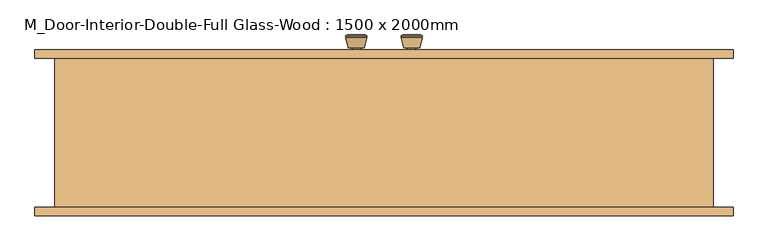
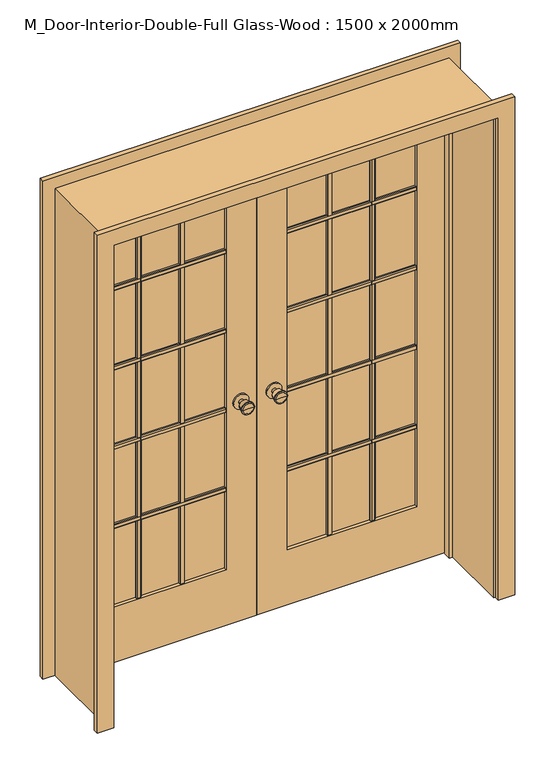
"""IFC4 building model written with IfcOpenShell, lengths in millimetres: door geometry, M_Door-Interior-Double-Full Glass-Wood : 1500 x 2000mm."""

from ifc_helpers import new_model, si_unit, point, frame, frame_2d, origin, place, context, project, spatial, polyline, circle_curve, trimmed, segment, composite_curve, outline, extrude, faceted_brep, source, transform, mapped, element, save
from ifc_brep_helpers import plane_surface, cylinder_surface, revolved_surface, advanced_brep


def m_door_interior_double_full_glass_wood_1500_x_2000mm_952f4878(model_context):
    return source(origin(), model_context, "Body", "SolidModel", [
        advanced_brep(
        [(-65.0, 177.825, 914.4), (-75.0, 177.825, 914.4), (-55.0, 177.825, 914.4), (-85.4758676, 226.825, 914.4), (-65.0, 226.825, 914.4), (-44.5241324, 226.825, 914.4), (-90.0, 224.9971319, 914.4), (-40.0, 224.9971319, 914.4), (-90.0, 221.5334537, 914.4), (-40.0, 221.5334537, 914.4), (-83.636236, 196.825, 914.4), (-46.363764, 196.825, 914.4), (-75.0, 196.825, 914.4), (-55.0, 196.825, 914.4)],
        [
            (0, 1),
            (1, 2, circle_curve(frame((-65.0, 177.825, 914.4), z_axis=(0.0, -1.0, 0.0), x_axis=(1.0, 0.0, 0.0)), 10.0)),
            (2, 0),
            (2, 1, circle_curve(frame((-65.0, 177.825, 914.4), z_axis=(0.0, -1.0, 0.0), x_axis=(1.0, 0.0, 0.0)), 10.0)),
            (3, 4),
            (4, 5),
            (5, 3, circle_curve(frame((-65.0, 226.825, 914.4), z_axis=(0.0, 1.0, 0.0), x_axis=(1.0, 0.0, 0.0)), 20.4758676)),
            (3, 5, circle_curve(frame((-65.0, 226.825, 914.4), z_axis=(0.0, 1.0, 0.0), x_axis=(1.0, 0.0, 0.0)), 20.4758676)),
            (6, 3),
            (5, 7),
            (7, 6, circle_curve(frame((-65.0, 224.9971319, 914.4), z_axis=(0.0, 1.0, 0.0), x_axis=(1.0, 0.0, 0.0)), 25.0)),
            (6, 7, circle_curve(frame((-65.0, 224.9971319, 914.4), z_axis=(0.0, 1.0, 0.0), x_axis=(1.0, 0.0, 0.0)), 25.0)),
            (8, 6),
            (7, 9),
            (9, 8, circle_curve(frame((-65.0, 221.5334537, 914.4), z_axis=(0.0, 1.0, 0.0), x_axis=(1.0, 0.0, 0.0)), 25.0)),
            (8, 9, circle_curve(frame((-65.0, 221.5334537, 914.4), z_axis=(0.0, 1.0, 0.0), x_axis=(1.0, 0.0, 0.0)), 25.0)),
            (10, 8),
            (9, 11),
            (11, 10, circle_curve(frame((-65.0, 196.825, 914.4), z_axis=(0.0, 1.0, 0.0), x_axis=(1.0, 0.0, 0.0)), 18.636236)),
            (10, 11, circle_curve(frame((-65.0, 196.825, 914.4), z_axis=(0.0, 1.0, 0.0), x_axis=(1.0, 0.0, 0.0)), 18.636236)),
            (12, 10),
            (11, 13),
            (13, 12, circle_curve(frame((-65.0, 196.825, 914.4), z_axis=(0.0, 1.0, 0.0), x_axis=(1.0, 0.0, 0.0)), 10.0)),
            (12, 13, circle_curve(frame((-65.0, 196.825, 914.4), z_axis=(0.0, 1.0, 0.0), x_axis=(1.0, 0.0, 0.0)), 10.0)),
            (1, 12),
            (13, 2),
        ],
        [
            plane_surface(frame((-65.0, 177.825, 914.4), z_axis=(0.0, -1.0, 0.0), x_axis=(1.0, 0.0, 0.0))),
            plane_surface(frame((-65.0, 226.825, 914.4), z_axis=(0.0, 1.0, 0.0), x_axis=(1.0, 0.0, 0.0))),
            revolved_surface(polyline([(-44.5241324, 226.825, 914.4), (-40.0, 224.9971319, 914.4)]), (-65.0, 177.825, 914.4), (0.0, -1.0, 0.0)),
            cylinder_surface(frame((-65.0, 177.825, 914.4), z_axis=(0.0, -1.0, 0.0), x_axis=(1.0, 0.0, 0.0)), 25.0),
            revolved_surface(polyline([(-40.0, 221.5334537, 914.4), (-46.363764, 196.825, 914.4)]), (-65.0, 177.825, 914.4), (0.0, -1.0, 0.0)),
            plane_surface(frame((-65.0, 196.825, 914.4), z_axis=(0.0, -1.0, 0.0), x_axis=(1.0, 0.0, 0.0))),
            cylinder_surface(frame((-65.0, 177.825, 914.4), z_axis=(0.0, -1.0, 0.0), x_axis=(1.0, 0.0, 0.0)), 10.0),
        ],
        [
            (0, [[1, 2, 3]]),
            (0, [[-3, 4, -1]]),
            (1, [[5, 6, 7]]),
            (1, [[-6, -5, 8]]),
            (2, [[9, -7, 10, 11]]),
            (2, [[-10, -8, -9, 12]]),
            (3, [[13, -11, 14, 15]]),
            (3, [[-14, -12, -13, 16]]),
            (4, [[17, -15, 18, 19]]),
            (4, [[-18, -16, -17, 20]]),
            (5, [[21, -19, 22, 23]]),
            (5, [[-22, -20, -21, 24]]),
            (6, [[25, -23, 26, -2]]),
            (6, [[-26, -24, -25, -4]]),
        ],
    ),
        extrude(outline(composite_curve([segment(trimmed(circle_curve(frame_2d((914.4, -65.0)), 30.0), [point((914.4, -35.0))], [point((914.4, -95.0))], False, "CARTESIAN"), True, "CONTINUOUS"), segment(trimmed(circle_curve(frame_2d((914.4, -65.0)), 30.0), [point((914.4, -95.0))], [point((914.4, -35.0))], False, "CARTESIAN"), True, "CONTINUOUS")], self_intersect=False)), frame((0.0, 171.825, 0.0), z_axis=(0.0, 1.0, 0.0), x_axis=(0.0, 0.0, 1.0)), (0.0, 0.0, 1.0), 6.0),
        advanced_brep(
        [(-65.0, 130.825, 914.4), (-55.0, 130.825, 914.4), (-75.0, 130.825, 914.4), (-85.4758676, 81.825, 914.4), (-44.5241324, 81.825, 914.4), (-65.0, 81.825, 914.4), (-90.0, 83.6528681, 914.4), (-40.0, 83.6528681, 914.4), (-90.0, 87.1165463, 914.4), (-40.0, 87.1165463, 914.4), (-83.636236, 111.825, 914.4), (-46.363764, 111.825, 914.4), (-75.0, 111.825, 914.4), (-55.0, 111.825, 914.4)],
        [
            (0, 1),
            (1, 2, circle_curve(frame((-65.0, 130.825, 914.4), z_axis=(0.0, 1.0, 0.0), x_axis=(1.0, 0.0, 0.0)), 10.0)),
            (2, 0),
            (2, 1, circle_curve(frame((-65.0, 130.825, 914.4), z_axis=(0.0, 1.0, 0.0), x_axis=(1.0, 0.0, 0.0)), 10.0)),
            (3, 4, circle_curve(frame((-65.0, 81.825, 914.4), z_axis=(0.0, -1.0, 0.0), x_axis=(1.0, 0.0, 0.0)), 20.4758676)),
            (4, 5),
            (5, 3),
            (4, 3, circle_curve(frame((-65.0, 81.825, 914.4), z_axis=(0.0, -1.0, 0.0), x_axis=(1.0, 0.0, 0.0)), 20.4758676)),
            (6, 7, circle_curve(frame((-65.0, 83.6528681, 914.4), z_axis=(0.0, -1.0, 0.0), x_axis=(1.0, 0.0, 0.0)), 25.0)),
            (7, 4),
            (3, 6),
            (7, 6, circle_curve(frame((-65.0, 83.6528681, 914.4), z_axis=(0.0, -1.0, 0.0), x_axis=(1.0, 0.0, 0.0)), 25.0)),
            (8, 9, circle_curve(frame((-65.0, 87.1165463, 914.4), z_axis=(0.0, -1.0, 0.0), x_axis=(1.0, 0.0, 0.0)), 25.0)),
            (9, 7),
            (6, 8),
            (9, 8, circle_curve(frame((-65.0, 87.1165463, 914.4), z_axis=(0.0, -1.0, 0.0), x_axis=(1.0, 0.0, 0.0)), 25.0)),
            (10, 11, circle_curve(frame((-65.0, 111.825, 914.4), z_axis=(0.0, -1.0, 0.0), x_axis=(1.0, 0.0, 0.0)), 18.636236)),
            (11, 9),
            (8, 10),
            (11, 10, circle_curve(frame((-65.0, 111.825, 914.4), z_axis=(0.0, -1.0, 0.0), x_axis=(1.0, 0.0, 0.0)), 18.636236)),
            (12, 13, circle_curve(frame((-65.0, 111.825, 914.4), z_axis=(0.0, -1.0, 0.0), x_axis=(1.0, 0.0, 0.0)), 10.0)),
            (13, 11),
            (10, 12),
            (13, 12, circle_curve(frame((-65.0, 111.825, 914.4), z_axis=(0.0, -1.0, 0.0), x_axis=(1.0, 0.0, 0.0)), 10.0)),
            (1, 13),
            (12, 2),
        ],
        [
            plane_surface(frame((-65.0, 130.825, 914.4), z_axis=(0.0, 1.0, 0.0), x_axis=(1.0, 0.0, 0.0))),
            plane_surface(frame((-65.0, 81.825, 914.4), z_axis=(0.0, -1.0, 0.0), x_axis=(1.0, 0.0, 0.0))),
            revolved_surface(polyline([(-44.5241324, 81.825, 914.4), (-40.0, 83.6528681, 914.4)]), (-65.0, 130.825, 914.4), (0.0, 1.0, 0.0)),
            cylinder_surface(frame((-65.0, 130.825, 914.4), z_axis=(0.0, 1.0, 0.0), x_axis=(1.0, 0.0, 0.0)), 25.0),
            revolved_surface(polyline([(-40.0, 87.1165463, 914.4), (-46.363764, 111.825, 914.4)]), (-65.0, 130.825, 914.4), (0.0, 1.0, 0.0)),
            plane_surface(frame((-65.0, 111.825, 914.4), z_axis=(0.0, 1.0, 0.0), x_axis=(1.0, 0.0, 0.0))),
            cylinder_surface(frame((-65.0, 130.825, 914.4), z_axis=(0.0, 1.0, 0.0), x_axis=(1.0, 0.0, 0.0)), 10.0),
        ],
        [
            (0, [[1, 2, 3]]),
            (0, [[-3, 4, -1]]),
            (1, [[5, 6, 7]]),
            (1, [[8, -7, -6]]),
            (2, [[9, 10, -5, 11]]),
            (2, [[12, -11, -8, -10]]),
            (3, [[13, 14, -9, 15]]),
            (3, [[16, -15, -12, -14]]),
            (4, [[17, 18, -13, 19]]),
            (4, [[20, -19, -16, -18]]),
            (5, [[21, 22, -17, 23]]),
            (5, [[24, -23, -20, -22]]),
            (6, [[-2, 25, -21, 26]]),
            (6, [[-4, -26, -24, -25]]),
        ],
    ),
        extrude(outline(composite_curve([segment(trimmed(circle_curve(frame_2d((914.4, -65.0)), 30.0), [point((914.4, -35.0))], [point((914.4, -95.0))], False, "CARTESIAN"), True, "CONTINUOUS"), segment(trimmed(circle_curve(frame_2d((914.4, -65.0)), 30.0), [point((914.4, -95.0))], [point((914.4, -35.0))], False, "CARTESIAN"), True, "CONTINUOUS")], self_intersect=False)), frame((0.0, 130.825, 0.0), z_axis=(0.0, 1.0, 0.0), x_axis=(0.0, 0.0, 1.0)), (0.0, 0.0, 1.0), 6.0),
        extrude(outline(polyline([(150.825, 1559.525), (150.825, 1540.475), (144.475, 1540.475), (141.3, 1543.65), (141.3, 1556.35), (144.475, 1559.525), (150.825, 1559.525)])), frame((120.0, 0.0, 0.0), z_axis=(1.0, 0.0, 0.0), x_axis=(0.0, 1.0, 0.0)), (0.0, 0.0, 1.0), 510.0),
        extrude(outline(polyline([(150.825, 1229.525), (150.825, 1210.475), (144.475, 1210.475), (141.3, 1213.65), (141.3, 1226.35), (144.475, 1229.525), (150.825, 1229.525)])), frame((120.0, 0.0, 0.0), z_axis=(1.0, 0.0, 0.0), x_axis=(0.0, 1.0, 0.0)), (0.0, 0.0, 1.0), 510.0),
        extrude(outline(polyline([(150.825, 899.525), (150.825, 880.475), (144.475, 880.475), (141.3, 883.65), (141.3, 896.35), (144.475, 899.525), (150.825, 899.525)])), frame((120.0, 0.0, 0.0), z_axis=(1.0, 0.0, 0.0), x_axis=(0.0, 1.0, 0.0)), (0.0, 0.0, 1.0), 510.0),
        extrude(outline(polyline([(150.825, 569.525), (150.825, 550.475), (144.475, 550.475), (141.3, 553.65), (141.3, 566.35), (144.475, 569.525), (150.825, 569.525)])), frame((120.0, 0.0, 0.0), z_axis=(1.0, 0.0, 0.0), x_axis=(0.0, 1.0, 0.0)), (0.0, 0.0, 1.0), 510.0),
        extrude(outline(polyline([(450.475, 150.825), (469.525, 150.825), (469.525, 144.475), (466.35, 141.3), (453.65, 141.3), (450.475, 144.475), (450.475, 150.825)])), frame((0.0, 0.0, 230.0), z_axis=(0.0, 0.0, 1.0), x_axis=(1.0, 0.0, 0.0)), (0.0, 0.0, 1.0), 1650.0),
        extrude(outline(polyline([(280.475, 150.825), (299.525, 150.825), (299.525, 144.475), (296.35, 141.3), (283.65, 141.3), (280.475, 144.475), (280.475, 150.825)])), frame((0.0, 0.0, 230.0), z_axis=(0.0, 0.0, 1.0), x_axis=(1.0, 0.0, 0.0)), (0.0, 0.0, 1.0), 1650.0),
        extrude(outline(polyline([(157.825, 1559.525), (164.175, 1559.525), (167.35, 1556.35), (167.35, 1543.65), (164.175, 1540.475), (157.825, 1540.475), (157.825, 1559.525)])), frame((-630.0, 0.0, 0.0), z_axis=(1.0, 0.0, 0.0), x_axis=(0.0, 1.0, 0.0)), (0.0, 0.0, 1.0), 510.0),
        extrude(outline(polyline([(157.825, 1229.525), (164.175, 1229.525), (167.35, 1226.35), (167.35, 1213.65), (164.175, 1210.475), (157.825, 1210.475), (157.825, 1229.525)])), frame((-630.0, 0.0, 0.0), z_axis=(1.0, 0.0, 0.0), x_axis=(0.0, 1.0, 0.0)), (0.0, 0.0, 1.0), 510.0),
        extrude(outline(polyline([(157.825, 899.525), (164.175, 899.525), (167.35, 896.35), (167.35, 883.65), (164.175, 880.475), (157.825, 880.475), (157.825, 899.525)])), frame((-630.0, 0.0, 0.0), z_axis=(1.0, 0.0, 0.0), x_axis=(0.0, 1.0, 0.0)), (0.0, 0.0, 1.0), 510.0),
        extrude(outline(polyline([(157.825, 569.525), (164.175, 569.525), (167.35, 566.35), (167.35, 553.65), (164.175, 550.475), (157.825, 550.475), (157.825, 569.525)])), frame((-630.0, 0.0, 0.0), z_axis=(1.0, 0.0, 0.0), x_axis=(0.0, 1.0, 0.0)), (0.0, 0.0, 1.0), 510.0),
        extrude(outline(polyline([(-299.525, 157.825), (-299.525, 164.175), (-296.35, 167.35), (-283.65, 167.35), (-280.475, 164.175), (-280.475, 157.825), (-299.525, 157.825)])), frame((0.0, 0.0, 230.0), z_axis=(0.0, 0.0, 1.0), x_axis=(1.0, 0.0, 0.0)), (0.0, 0.0, 1.0), 1650.0),
        extrude(outline(polyline([(-469.525, 157.825), (-469.525, 164.175), (-466.35, 167.35), (-453.65, 167.35), (-450.475, 164.175), (-450.475, 157.825), (-469.525, 157.825)])), frame((0.0, 0.0, 230.0), z_axis=(0.0, 0.0, 1.0), x_axis=(1.0, 0.0, 0.0)), (0.0, 0.0, 1.0), 1650.0),
        extrude(outline(polyline([(157.825, 1559.525), (164.175, 1559.525), (167.35, 1556.35), (167.35, 1543.65), (164.175, 1540.475), (157.825, 1540.475), (157.825, 1559.525)])), frame((120.0, 0.0, 0.0), z_axis=(1.0, 0.0, 0.0), x_axis=(0.0, 1.0, 0.0)), (0.0, 0.0, 1.0), 510.0),
        extrude(outline(polyline([(157.825, 1229.525), (164.175, 1229.525), (167.35, 1226.35), (167.35, 1213.65), (164.175, 1210.475), (157.825, 1210.475), (157.825, 1229.525)])), frame((120.0, 0.0, 0.0), z_axis=(1.0, 0.0, 0.0), x_axis=(0.0, 1.0, 0.0)), (0.0, 0.0, 1.0), 510.0),
        extrude(outline(polyline([(157.825, 899.525), (164.175, 899.525), (167.35, 896.35), (167.35, 883.65), (164.175, 880.475), (157.825, 880.475), (157.825, 899.525)])), frame((120.0, 0.0, 0.0), z_axis=(1.0, 0.0, 0.0), x_axis=(0.0, 1.0, 0.0)), (0.0, 0.0, 1.0), 510.0),
        extrude(outline(polyline([(157.825, 569.525), (164.175, 569.525), (167.35, 566.35), (167.35, 553.65), (164.175, 550.475), (157.825, 550.475), (157.825, 569.525)])), frame((120.0, 0.0, 0.0), z_axis=(1.0, 0.0, 0.0), x_axis=(0.0, 1.0, 0.0)), (0.0, 0.0, 1.0), 510.0),
        extrude(outline(polyline([(450.475, 157.825), (450.475, 164.175), (453.65, 167.35), (466.35, 167.35), (469.525, 164.175), (469.525, 157.825), (450.475, 157.825)])), frame((0.0, 0.0, 230.0), z_axis=(0.0, 0.0, 1.0), x_axis=(1.0, 0.0, 0.0)), (0.0, 0.0, 1.0), 1650.0),
        extrude(outline(polyline([(280.475, 157.825), (280.475, 164.175), (283.65, 167.35), (296.35, 167.35), (299.525, 164.175), (299.525, 157.825), (280.475, 157.825)])), frame((0.0, 0.0, 230.0), z_axis=(0.0, 0.0, 1.0), x_axis=(1.0, 0.0, 0.0)), (0.0, 0.0, 1.0), 1650.0),
        extrude(outline(polyline([(150.825, 1559.525), (150.825, 1540.475), (144.475, 1540.475), (141.3, 1543.65), (141.3, 1556.35), (144.475, 1559.525), (150.825, 1559.525)])), frame((-630.0, 0.0, 0.0), z_axis=(1.0, 0.0, 0.0), x_axis=(0.0, 1.0, 0.0)), (0.0, 0.0, 1.0), 510.0),
        extrude(outline(polyline([(150.825, 1229.525), (150.825, 1210.475), (144.475, 1210.475), (141.3, 1213.65), (141.3, 1226.35), (144.475, 1229.525), (150.825, 1229.525)])), frame((-630.0, 0.0, 0.0), z_axis=(1.0, 0.0, 0.0), x_axis=(0.0, 1.0, 0.0)), (0.0, 0.0, 1.0), 510.0),
        extrude(outline(polyline([(150.825, 899.525), (150.825, 880.475), (144.475, 880.475), (141.3, 883.65), (141.3, 896.35), (144.475, 899.525), (150.825, 899.525)])), frame((-630.0, 0.0, 0.0), z_axis=(1.0, 0.0, 0.0), x_axis=(0.0, 1.0, 0.0)), (0.0, 0.0, 1.0), 510.0),
        extrude(outline(polyline([(150.825, 569.525), (150.825, 550.475), (144.475, 550.475), (141.3, 553.65), (141.3, 566.35), (144.475, 569.525), (150.825, 569.525)])), frame((-630.0, 0.0, 0.0), z_axis=(1.0, 0.0, 0.0), x_axis=(0.0, 1.0, 0.0)), (0.0, 0.0, 1.0), 510.0),
        extrude(outline(polyline([(-299.525, 150.825), (-280.475, 150.825), (-280.475, 144.475), (-283.65, 141.3), (-296.35, 141.3), (-299.525, 144.475), (-299.525, 150.825)])), frame((0.0, 0.0, 230.0), z_axis=(0.0, 0.0, 1.0), x_axis=(1.0, 0.0, 0.0)), (0.0, 0.0, 1.0), 1650.0),
        extrude(outline(polyline([(-469.525, 150.825), (-450.475, 150.825), (-450.475, 144.475), (-453.65, 141.3), (-466.35, 141.3), (-469.525, 144.475), (-469.525, 150.825)])), frame((0.0, 0.0, 230.0), z_axis=(0.0, 0.0, 1.0), x_axis=(1.0, 0.0, 0.0)), (0.0, 0.0, 1.0), 1650.0),
        advanced_brep(
        [(65.0, 130.825, 914.4), (75.0, 130.825, 914.4), (55.0, 130.825, 914.4), (85.4758676, 81.825, 914.4), (65.0, 81.825, 914.4), (44.5241324, 81.825, 914.4), (90.0, 83.6528681, 914.4), (40.0, 83.6528681, 914.4), (90.0, 87.1165463, 914.4), (40.0, 87.1165463, 914.4), (83.636236, 111.825, 914.4), (46.363764, 111.825, 914.4), (75.0, 111.825, 914.4), (55.0, 111.825, 914.4)],
        [
            (0, 1),
            (1, 2, circle_curve(frame((65.0, 130.825, 914.4), z_axis=(0.0, 1.0, 0.0), x_axis=(-1.0, 0.0, 0.0)), 10.0)),
            (2, 0),
            (2, 1, circle_curve(frame((65.0, 130.825, 914.4), z_axis=(0.0, 1.0, 0.0), x_axis=(-1.0, 0.0, 0.0)), 10.0)),
            (3, 4),
            (4, 5),
            (5, 3, circle_curve(frame((65.0, 81.825, 914.4), z_axis=(0.0, -1.0, 0.0), x_axis=(-1.0, 0.0, 0.0)), 20.4758676)),
            (3, 5, circle_curve(frame((65.0, 81.825, 914.4), z_axis=(0.0, -1.0, 0.0), x_axis=(-1.0, 0.0, 0.0)), 20.4758676)),
            (6, 3),
            (5, 7),
            (7, 6, circle_curve(frame((65.0, 83.6528681, 914.4), z_axis=(0.0, -1.0, 0.0), x_axis=(-1.0, 0.0, 0.0)), 25.0)),
            (6, 7, circle_curve(frame((65.0, 83.6528681, 914.4), z_axis=(0.0, -1.0, 0.0), x_axis=(-1.0, 0.0, 0.0)), 25.0)),
            (8, 6),
            (7, 9),
            (9, 8, circle_curve(frame((65.0, 87.1165463, 914.4), z_axis=(0.0, -1.0, 0.0), x_axis=(-1.0, 0.0, 0.0)), 25.0)),
            (8, 9, circle_curve(frame((65.0, 87.1165463, 914.4), z_axis=(0.0, -1.0, 0.0), x_axis=(-1.0, 0.0, 0.0)), 25.0)),
            (10, 8),
            (9, 11),
            (11, 10, circle_curve(frame((65.0, 111.825, 914.4), z_axis=(0.0, -1.0, 0.0), x_axis=(-1.0, 0.0, 0.0)), 18.636236)),
            (10, 11, circle_curve(frame((65.0, 111.825, 914.4), z_axis=(0.0, -1.0, 0.0), x_axis=(-1.0, 0.0, 0.0)), 18.636236)),
            (12, 10),
            (11, 13),
            (13, 12, circle_curve(frame((65.0, 111.825, 914.4), z_axis=(0.0, -1.0, 0.0), x_axis=(-1.0, 0.0, 0.0)), 10.0)),
            (12, 13, circle_curve(frame((65.0, 111.825, 914.4), z_axis=(0.0, -1.0, 0.0), x_axis=(-1.0, 0.0, 0.0)), 10.0)),
            (1, 12),
            (13, 2),
        ],
        [
            plane_surface(frame((65.0, 130.825, 914.4), z_axis=(0.0, 1.0, 0.0), x_axis=(-1.0, 0.0, 0.0))),
            plane_surface(frame((65.0, 81.825, 914.4), z_axis=(0.0, -1.0, 0.0), x_axis=(-1.0, 0.0, 0.0))),
            revolved_surface(polyline([(44.5241324, 81.825, 914.4), (40.0, 83.6528681, 914.4)]), (65.0, 130.825, 914.4), (0.0, 1.0, 0.0)),
            cylinder_surface(frame((65.0, 130.825, 914.4), z_axis=(0.0, 1.0, 0.0), x_axis=(-1.0, 0.0, 0.0)), 25.0),
            revolved_surface(polyline([(40.0, 87.1165463, 914.4), (46.363764, 111.825, 914.4)]), (65.0, 130.825, 914.4), (0.0, 1.0, 0.0)),
            plane_surface(frame((65.0, 111.825, 914.4), z_axis=(0.0, 1.0, 0.0), x_axis=(-1.0, 0.0, 0.0))),
            cylinder_surface(frame((65.0, 130.825, 914.4), z_axis=(0.0, 1.0, 0.0), x_axis=(-1.0, 0.0, 0.0)), 10.0),
        ],
        [
            (0, [[1, 2, 3]]),
            (0, [[-3, 4, -1]]),
            (1, [[5, 6, 7]]),
            (1, [[-6, -5, 8]]),
            (2, [[9, -7, 10, 11]]),
            (2, [[-10, -8, -9, 12]]),
            (3, [[13, -11, 14, 15]]),
            (3, [[-14, -12, -13, 16]]),
            (4, [[17, -15, 18, 19]]),
            (4, [[-18, -16, -17, 20]]),
            (5, [[21, -19, 22, 23]]),
            (5, [[-22, -20, -21, 24]]),
            (6, [[25, -23, 26, -2]]),
            (6, [[-26, -24, -25, -4]]),
        ],
    ),
        extrude(outline(composite_curve([segment(trimmed(circle_curve(frame_2d((914.4, 65.0)), 30.0), [point((914.4, 35.0))], [point((914.4, 95.0))], False, "CARTESIAN"), True, "CONTINUOUS"), segment(trimmed(circle_curve(frame_2d((914.4, 65.0)), 30.0), [point((914.4, 95.0))], [point((914.4, 35.0))], False, "CARTESIAN"), True, "CONTINUOUS")], self_intersect=False)), frame((0.0, 130.825, 0.0), z_axis=(0.0, 1.0, 0.0), x_axis=(0.0, 0.0, 1.0)), (0.0, 0.0, 1.0), 6.0),
        advanced_brep(
        [(65.0, 177.825, 914.4), (55.0, 177.825, 914.4), (75.0, 177.825, 914.4), (85.4758676, 226.825, 914.4), (44.5241324, 226.825, 914.4), (65.0, 226.825, 914.4), (90.0, 224.9971319, 914.4), (40.0, 224.9971319, 914.4), (90.0, 221.5334537, 914.4), (40.0, 221.5334537, 914.4), (83.636236, 196.825, 914.4), (46.363764, 196.825, 914.4), (75.0, 196.825, 914.4), (55.0, 196.825, 914.4)],
        [
            (0, 1),
            (1, 2, circle_curve(frame((65.0, 177.825, 914.4), z_axis=(0.0, -1.0, 0.0), x_axis=(-1.0, 0.0, 0.0)), 10.0)),
            (2, 0),
            (2, 1, circle_curve(frame((65.0, 177.825, 914.4), z_axis=(0.0, -1.0, 0.0), x_axis=(-1.0, 0.0, 0.0)), 10.0)),
            (3, 4, circle_curve(frame((65.0, 226.825, 914.4), z_axis=(0.0, 1.0, 0.0), x_axis=(-1.0, 0.0, 0.0)), 20.4758676)),
            (4, 5),
            (5, 3),
            (4, 3, circle_curve(frame((65.0, 226.825, 914.4), z_axis=(0.0, 1.0, 0.0), x_axis=(-1.0, 0.0, 0.0)), 20.4758676)),
            (6, 7, circle_curve(frame((65.0, 224.9971319, 914.4), z_axis=(0.0, 1.0, 0.0), x_axis=(-1.0, 0.0, 0.0)), 25.0)),
            (7, 4),
            (3, 6),
            (7, 6, circle_curve(frame((65.0, 224.9971319, 914.4), z_axis=(0.0, 1.0, 0.0), x_axis=(-1.0, 0.0, 0.0)), 25.0)),
            (8, 9, circle_curve(frame((65.0, 221.5334537, 914.4), z_axis=(0.0, 1.0, 0.0), x_axis=(-1.0, 0.0, 0.0)), 25.0)),
            (9, 7),
            (6, 8),
            (9, 8, circle_curve(frame((65.0, 221.5334537, 914.4), z_axis=(0.0, 1.0, 0.0), x_axis=(-1.0, 0.0, 0.0)), 25.0)),
            (10, 11, circle_curve(frame((65.0, 196.825, 914.4), z_axis=(0.0, 1.0, 0.0), x_axis=(-1.0, 0.0, 0.0)), 18.636236)),
            (11, 9),
            (8, 10),
            (11, 10, circle_curve(frame((65.0, 196.825, 914.4), z_axis=(0.0, 1.0, 0.0), x_axis=(-1.0, 0.0, 0.0)), 18.636236)),
            (12, 13, circle_curve(frame((65.0, 196.825, 914.4), z_axis=(0.0, 1.0, 0.0), x_axis=(-1.0, 0.0, 0.0)), 10.0)),
            (13, 11),
            (10, 12),
            (13, 12, circle_curve(frame((65.0, 196.825, 914.4), z_axis=(0.0, 1.0, 0.0), x_axis=(-1.0, 0.0, 0.0)), 10.0)),
            (1, 13),
            (12, 2),
        ],
        [
            plane_surface(frame((65.0, 177.825, 914.4), z_axis=(0.0, -1.0, 0.0), x_axis=(-1.0, 0.0, 0.0))),
            plane_surface(frame((65.0, 226.825, 914.4), z_axis=(0.0, 1.0, 0.0), x_axis=(-1.0, 0.0, 0.0))),
            revolved_surface(polyline([(44.5241324, 226.825, 914.4), (40.0, 224.9971319, 914.4)]), (65.0, 177.825, 914.4), (0.0, -1.0, 0.0)),
            cylinder_surface(frame((65.0, 177.825, 914.4), z_axis=(0.0, -1.0, 0.0), x_axis=(-1.0, 0.0, 0.0)), 25.0),
            revolved_surface(polyline([(40.0, 221.5334537, 914.4), (46.363764, 196.825, 914.4)]), (65.0, 177.825, 914.4), (0.0, -1.0, 0.0)),
            plane_surface(frame((65.0, 196.825, 914.4), z_axis=(0.0, -1.0, 0.0), x_axis=(-1.0, 0.0, 0.0))),
            cylinder_surface(frame((65.0, 177.825, 914.4), z_axis=(0.0, -1.0, 0.0), x_axis=(-1.0, 0.0, 0.0)), 10.0),
        ],
        [
            (0, [[1, 2, 3]]),
            (0, [[-3, 4, -1]]),
            (1, [[5, 6, 7]]),
            (1, [[8, -7, -6]]),
            (2, [[9, 10, -5, 11]]),
            (2, [[12, -11, -8, -10]]),
            (3, [[13, 14, -9, 15]]),
            (3, [[16, -15, -12, -14]]),
            (4, [[17, 18, -13, 19]]),
            (4, [[20, -19, -16, -18]]),
            (5, [[21, 22, -17, 23]]),
            (5, [[24, -23, -20, -22]]),
            (6, [[-2, 25, -21, 26]]),
            (6, [[-4, -26, -24, -25]]),
        ],
    ),
        extrude(outline(composite_curve([segment(trimmed(circle_curve(frame_2d((914.4, 65.0)), 30.0), [point((914.4, 35.0))], [point((914.4, 95.0))], False, "CARTESIAN"), True, "CONTINUOUS"), segment(trimmed(circle_curve(frame_2d((914.4, 65.0)), 30.0), [point((914.4, 95.0))], [point((914.4, 35.0))], False, "CARTESIAN"), True, "CONTINUOUS")], self_intersect=False)), frame((0.0, 171.825, 0.0), z_axis=(0.0, 1.0, 0.0), x_axis=(0.0, 0.0, 1.0)), (0.0, 0.0, 1.0), 6.0),
        extrude(outline(polyline([(0.0, 756.35), (0.0, 821.35), (2071.35, 821.35), (2071.35, -821.35), (0.0, -821.35), (0.0, -756.35), (2006.35, -756.35), (2006.35, 756.35), (0.0, 756.35)])), frame((0.0, 171.825, 0.0), z_axis=(0.0, 1.0, 0.0), x_axis=(0.0, 0.0, 1.0)), (0.0, 0.0, 1.0), 20.0),
        extrude(outline(polyline([(0.0, 756.35), (0.0, 821.35), (2071.35, 821.35), (2071.35, -821.35), (0.0, -821.35), (0.0, -756.35), (2006.35, -756.35), (2006.35, 756.35), (0.0, 756.35)])), frame((0.0, -198.175, 0.0), z_axis=(0.0, 1.0, 0.0), x_axis=(0.0, 0.0, 1.0)), (0.0, 0.0, 1.0), 20.0),
        extrude(outline(polyline([(2000.0, -750.0), (0.0, -750.0), (0.0, -1.6019111), (2000.0, -1.6019111), (2000.0, -750.0)]), holes=[polyline([(230.0, -630.0), (1880.0, -630.0), (1880.0, -120.0), (230.0, -120.0), (230.0, -630.0)])]), frame((0.0, 136.825, 0.0), z_axis=(0.0, 1.0, 0.0), x_axis=(0.0, 0.0, 1.0)), (0.0, 0.0, 1.0), 35.0),
        extrude(outline(polyline([(0.0, 750.0), (2000.0, 750.0), (2000.0, 1.5875), (0.0, 1.5875), (0.0, 750.0)]), holes=[polyline([(1880.0, 120.0), (1880.0, 630.0), (230.0, 630.0), (230.0, 120.0), (1880.0, 120.0)])]), frame((0.0, 136.825, 0.0), z_axis=(0.0, 1.0, 0.0), x_axis=(0.0, 0.0, 1.0)), (0.0, 0.0, 1.0), 35.0),
        faceted_brep([(775.0, 171.825, 0.0), (775.0, -178.175, 0.0), (750.0, -178.175, 0.0), (750.0, 101.9, 0.0), (737.3, 101.9, 0.0), (737.3, 136.825, 0.0), (750.0, 136.825, 0.0), (750.0, 171.825, 0.0), (775.0, 171.825, 2025.0), (775.0, -178.175, 2025.0), (-775.0, -178.175, 2025.0), (-775.0, -178.175, 0.0), (-750.0, -178.175, 0.0), (-750.0, -178.175, 2000.0), (750.0, -178.175, 2000.0), (750.0, 101.9, 2000.0), (-750.0, 101.9, 2000.0), (-750.0, 101.9, 0.0), (-737.3, 101.9, 0.0), (-737.3, 101.9, 1987.3), (737.3, 101.9, 1987.3), (737.3, 136.825, 1987.3), (1.5875, 136.825, 1987.3), (-1.6019111, 136.825, 1987.3), (-737.3, 136.825, 1987.3), (-737.3, 136.825, 0.0), (-750.0, 136.825, 0.0), (-750.0, 136.825, 2000.0), (-1.6019111, 136.825, 2000.0), (1.5875, 136.825, 2000.0), (750.0, 136.825, 2000.0), (750.0, 171.825, 2000.0), (1.5875, 171.825, 2000.0), (-1.6019111, 171.825, 2000.0), (-750.0, 171.825, 2000.0), (-750.0, 171.825, 0.0), (-775.0, 171.825, 0.0), (-775.0, 171.825, 2025.0)], [[[0, 1, 2, 3, 4, 5, 6, 7]], [[1, 0, 8, 9]], [[2, 1, 9, 10, 11, 12, 13, 14]], [[3, 2, 14, 15]], [[4, 3, 15, 16, 17, 18, 19, 20]], [[5, 4, 20, 21]], [[6, 5, 21, 22, 23, 24, 25, 26, 27, 28, 29, 30]], [[7, 6, 30, 31]], [[0, 7, 31, 32, 33, 34, 35, 36, 37, 8]], [[9, 8, 37, 10]], [[14, 13, 16, 15]], [[20, 19, 24, 23, 22, 21]], [[31, 30, 29, 28, 27, 34, 33, 32]], [[12, 11, 36, 35, 26, 25, 18, 17]], [[11, 10, 37, 36]], [[13, 12, 17, 16]], [[19, 18, 25, 24]], [[27, 26, 35, 34]]]),
        extrude(outline(polyline([(630.0, 150.825), (120.0, 150.825), (120.0, 157.825), (630.0, 157.825), (630.0, 150.825)])), frame((0.0, 0.0, 230.0), z_axis=(0.0, 0.0, 1.0), x_axis=(1.0, 0.0, 0.0)), (0.0, 0.0, 1.0), 1650.0),
        extrude(outline(polyline([(-120.0, 150.825), (-630.0, 150.825), (-630.0, 157.825), (-120.0, 157.825), (-120.0, 150.825)])), frame((0.0, 0.0, 230.0), z_axis=(0.0, 0.0, 1.0), x_axis=(1.0, 0.0, 0.0)), (0.0, 0.0, 1.0), 1650.0),
    ])


if __name__ == "__main__":
    model = new_model("IFC4")
    model_context = context("Model", 3, world=origin())
    ifc_project = project(units=[si_unit("LENGTHUNIT", "METRE", prefix="MILLI")], contexts=[model_context])
    site = spatial("IfcSite", under=ifc_project)
    building = spatial("IfcBuilding", under=site)
    placement = place(None, origin())
    m_door_interior_double_full_glass_wood_1500_x_2000mm_shape = m_door_interior_double_full_glass_wood_1500_x_2000mm_952f4878(model_context)
    element("IfcDoor", 1, ObjectType="M_Door-Interior-Double-Full Glass-Wood : 1500 x 2000mm", at=placement, inside=building, context=model_context, shape_type="MappedRepresentation", body=[
        mapped(m_door_interior_double_full_glass_wood_1500_x_2000mm_shape, transform((0.0, 0.0, 0.0), x_axis=(1.0, 0.0, 0.0), y_axis=(0.0, 1.0, 0.0), z_axis=(0.0, 0.0, 1.0))),
    ])
    save(model, "model.ifc")
